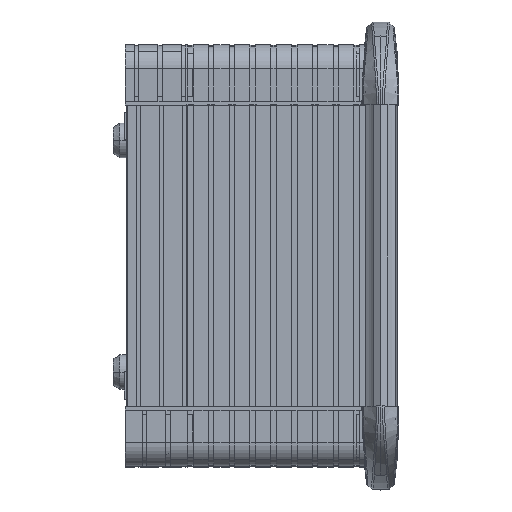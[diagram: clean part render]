
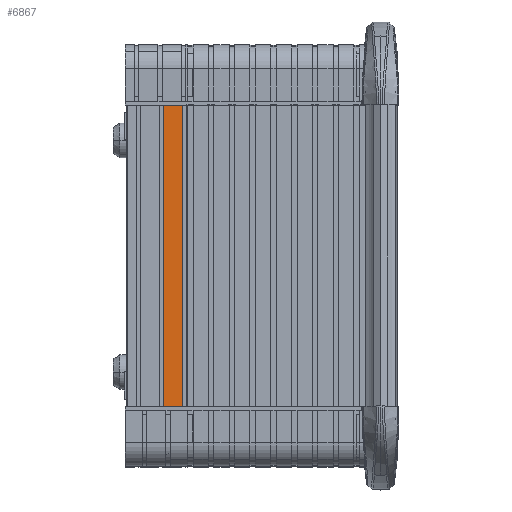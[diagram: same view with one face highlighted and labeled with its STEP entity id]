
A CAD part, top view. The second image highlights one B-rep face of the part: STEP entity #6867.
In plain terms, the highlighted planar face has unit normal (0, 0, 1).
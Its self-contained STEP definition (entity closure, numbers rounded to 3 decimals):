
#5560 = AXIS2_PLACEMENT_3D ( 'NONE', #163046, #218192, #352130 ) ;
#6867 = ADVANCED_FACE ( 'NONE', ( #316780 ), #269664, .T. ) ;
#8525 = VERTEX_POINT ( 'NONE', #271027 ) ;
#11211 = CARTESIAN_POINT ( 'NONE',  ( -96.583, 27.475, 492.404 ) ) ;
#24465 = VERTEX_POINT ( 'NONE', #85238 ) ;
#24914 = VECTOR ( 'NONE', #66274, 1000. ) ;
#63624 = CARTESIAN_POINT ( 'NONE',  ( -96.583, 27.475, 492.404 ) ) ;
#66274 = DIRECTION ( 'NONE',  ( 1., 0., 0. ) ) ;
#70214 = CARTESIAN_POINT ( 'NONE',  ( -110.253, 244.645, 492.404 ) ) ;
#85238 = CARTESIAN_POINT ( 'NONE',  ( -110.253, 244.645, 492.404 ) ) ;
#92605 = EDGE_CURVE ( 'NONE', #8525, #266060, #298912, .T. ) ;
#98510 = ORIENTED_EDGE ( 'NONE', *, *, #129490, .T. ) ;
#122571 = CARTESIAN_POINT ( 'NONE',  ( -96.583, 244.645, 492.404 ) ) ;
#129490 = EDGE_CURVE ( 'NONE', #266060, #253628, #274483, .T. ) ;
#145975 = CARTESIAN_POINT ( 'NONE',  ( -96.583, 244.645, 492.404 ) ) ;
#149195 = DIRECTION ( 'NONE',  ( 0., -1., 0. ) ) ;
#150169 = VECTOR ( 'NONE', #173512, 1000. ) ;
#163046 = CARTESIAN_POINT ( 'NONE',  ( -96.583, 244.645, 492.404 ) ) ;
#173512 = DIRECTION ( 'NONE',  ( 0., 1., 0. ) ) ;
#192496 = EDGE_LOOP ( 'NONE', ( #304605, #305102, #98510, #261763 ) ) ;
#202999 = VECTOR ( 'NONE', #348373, 1000. ) ;
#218192 = DIRECTION ( 'NONE',  ( 0., 0., 1. ) ) ;
#228842 = LINE ( 'NONE', #315048, #202999 ) ;
#238546 = EDGE_CURVE ( 'NONE', #24465, #253628, #228842, .T. ) ;
#253628 = VERTEX_POINT ( 'NONE', #122571 ) ;
#261763 = ORIENTED_EDGE ( 'NONE', *, *, #238546, .F. ) ;
#266060 = VERTEX_POINT ( 'NONE', #63624 ) ;
#269664 = PLANE ( 'NONE',  #5560 ) ;
#271027 = CARTESIAN_POINT ( 'NONE',  ( -110.253, 27.475, 492.404 ) ) ;
#274483 = LINE ( 'NONE', #145975, #150169 ) ;
#279874 = LINE ( 'NONE', #70214, #352514 ) ;
#298912 = LINE ( 'NONE', #11211, #24914 ) ;
#302319 = EDGE_CURVE ( 'NONE', #24465, #8525, #279874, .T. ) ;
#304605 = ORIENTED_EDGE ( 'NONE', *, *, #302319, .T. ) ;
#305102 = ORIENTED_EDGE ( 'NONE', *, *, #92605, .T. ) ;
#315048 = CARTESIAN_POINT ( 'NONE',  ( -56.503, 244.645, 492.404 ) ) ;
#316780 = FACE_OUTER_BOUND ( 'NONE', #192496, .T. ) ;
#348373 = DIRECTION ( 'NONE',  ( 1., 0., 0. ) ) ;
#352130 = DIRECTION ( 'NONE',  ( 0., -1., 0. ) ) ;
#352514 = VECTOR ( 'NONE', #149195, 1000. ) ;
